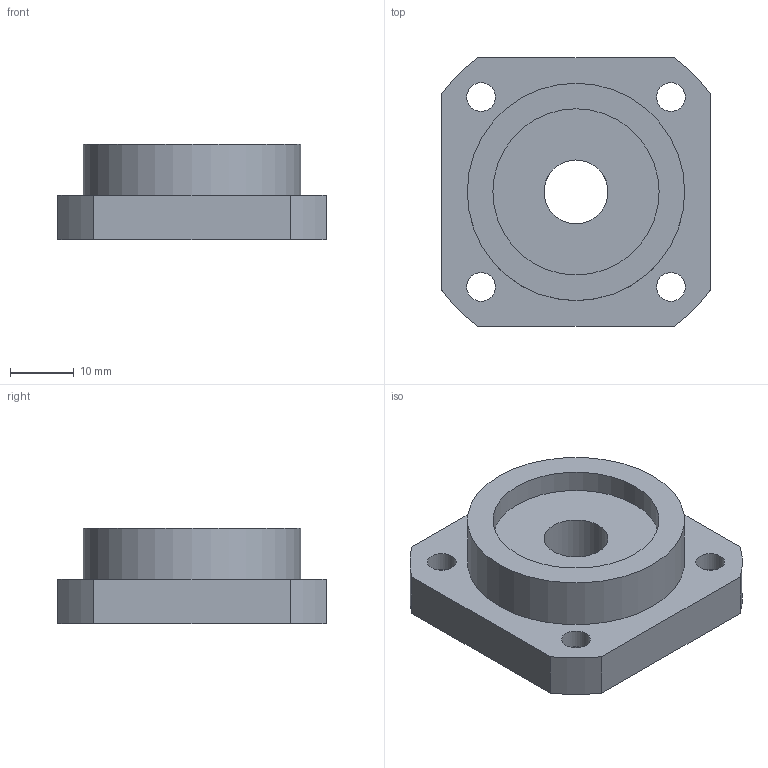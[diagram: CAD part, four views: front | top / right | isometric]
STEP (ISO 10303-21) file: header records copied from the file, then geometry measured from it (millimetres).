
FILE_DESCRIPTION(/* description */ (''),/* implementation_level */ '2;1');
FILE_NAME(/* name */ 'C:\Users\tenki620635\Desktop\官網\圖面\軸承座\3D\setp檔\FF12.stp',/* time_stamp */ '2020-11-23T14:56:03+08:00',/* author */ ('tenki620635'),/* organization */ (''),/* preprocessor_version */ 'ST-DEVELOPER v15.2',/* originating_system */ 'Autodesk Inventor 2014',/* authorisation */ '');
FILE_SCHEMA (('AUTOMOTIVE_DESIGN { 1 0 10303 214 3 1 1 }'));
Length unit declared in the file: millimetre
Products named in the file (1): FF12
Bounding box: 42 x 42 x 15 mm (x, y, z)
Volume: 13867.9 mm3; surface area: 6461.7 mm2
Topology: 1 solids, 1 shells, 29 faces, 60 edges, 40 vertices
Faces by surface type: cylinder 16, plane 13
Full cylindrical faces by diameter (mm): 4.5 x4, 8 x4, 10 x1, 26 x2, 34 x1
Entity records: 767 total; most frequent: DIRECTION 140, CARTESIAN_POINT 118, ORIENTED_EDGE 96, AXIS2_PLACEMENT_3D 62, EDGE_LOOP 58, EDGE_CURVE 48, VERTEX_POINT 40, FACE_BOUND 34
